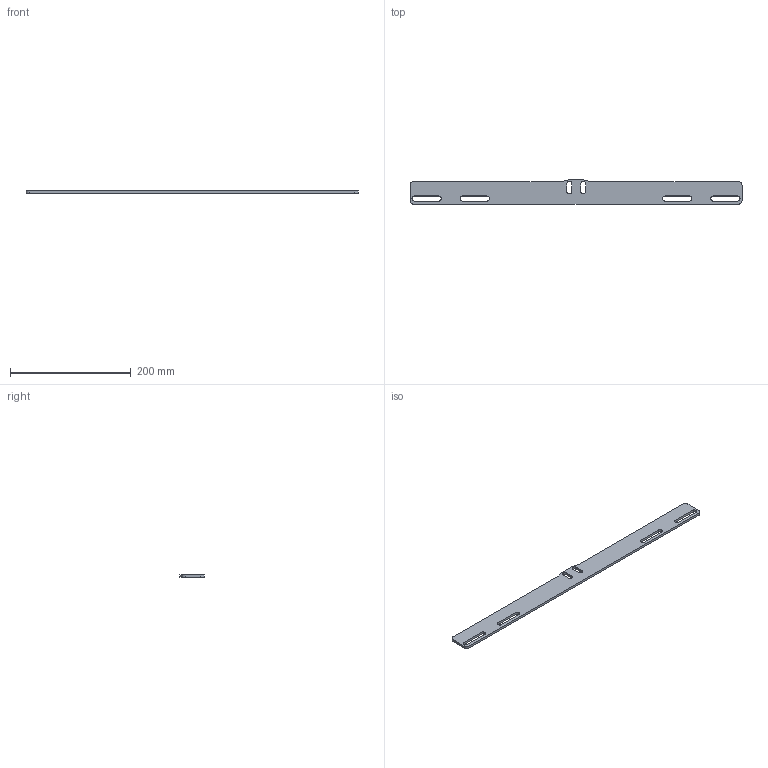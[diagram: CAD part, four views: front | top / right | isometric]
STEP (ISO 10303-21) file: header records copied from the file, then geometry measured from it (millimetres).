
FILE_DESCRIPTION(/* description */ ('CONNECTION STRIP'),/* implementation_level */ '2;1');
FILE_NAME(/* name */ '500-7120.stp',/* time_stamp */ '2022-09-22T08:56:38+02:00',/* author */ ('RH'),/* organization */ ('CARRYLINE'),/* preprocessor_version */ 'ST-DEVELOPER v19.2',/* originating_system */ 'Autodesk Inventor 2023',/* authorisation */ '');
FILE_SCHEMA (('AUTOMOTIVE_DESIGN { 1 0 10303 214 3 1 1 }'));
Length unit declared in the file: millimetre
Products named in the file (1): 500-7120
Bounding box: 550 x 40.25 x 4 mm (x, y, z)
Volume: 74640.5 mm3; surface area: 44092.6 mm2
Topology: 1 solids, 1 shells, 42 faces, 120 edges, 80 vertices
Faces by surface type: plane 22, cylinder 20
Entity records: 1451 total; most frequent: DIRECTION 246, CARTESIAN_POINT 243, ORIENTED_EDGE 240, EDGE_CURVE 120, AXIS2_PLACEMENT_3D 83, LINE 80, VECTOR 80, VERTEX_POINT 80
